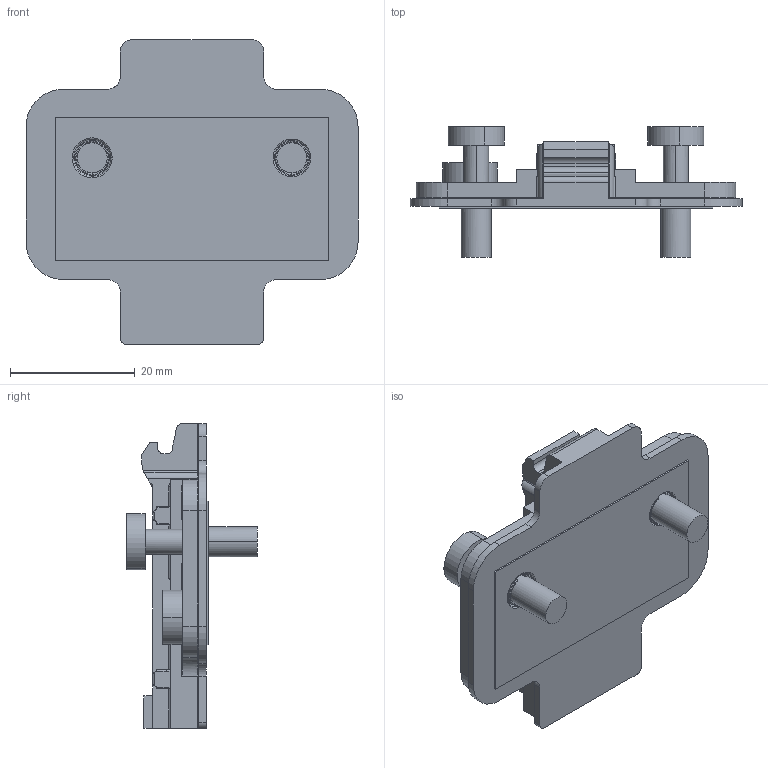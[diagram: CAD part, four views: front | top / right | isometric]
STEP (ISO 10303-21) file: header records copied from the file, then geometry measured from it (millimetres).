
FILE_DESCRIPTION (( 'STEP AP203' ), '1' );
FILE_NAME ('81T21TQA.STEP', '2024-07-27T02:20:46', ( '微软用户' ), ( '微软中国' ), 'SwSTEP 2.0', 'SolidWorks 2021', '' );
FILE_SCHEMA (( 'CONFIG_CONTROL_DESIGN' ));
Length unit declared in the file: millimetre
Products named in the file (1): 81T21TQA
Bounding box: 53.2 x 20.97 x 48.85 mm (x, y, z)
Volume: 11363.9 mm3; surface area: 6899.3 mm2
Topology: 1 solids, 1 shells, 560 faces, 1489 edges, 914 vertices
Faces by surface type: cylinder 226, plane 164, torus 98, bspline 40, sphere 20, cone 12
Entity records: 19170 total; most frequent: CARTESIAN_POINT 5562, ORIENTED_EDGE 2930, DIRECTION 2834, EDGE_CURVE 1465, AXIS2_PLACEMENT_3D 1117, VERTEX_POINT 914, LINE 600, VECTOR 600
